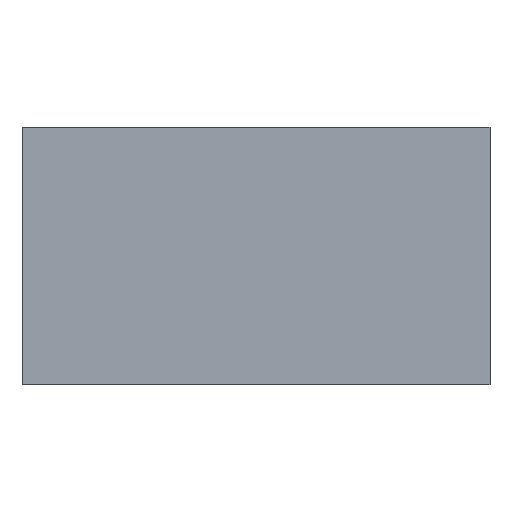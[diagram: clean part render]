
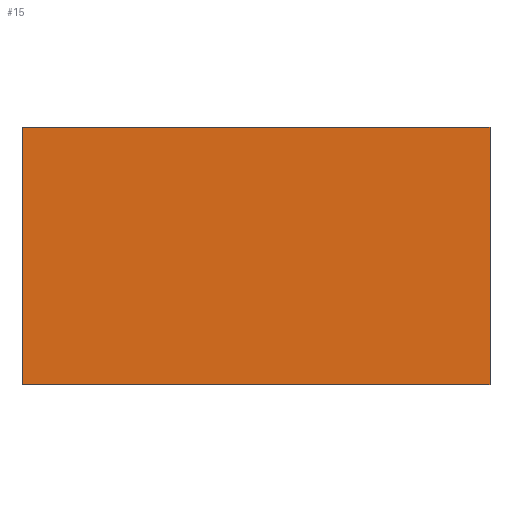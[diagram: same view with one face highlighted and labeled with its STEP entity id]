
A CAD part, front view. The second image highlights one B-rep face of the part: STEP entity #15.
In plain terms, the highlighted planar face has unit normal (0, -1, 0).
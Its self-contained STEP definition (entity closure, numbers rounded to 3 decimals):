
#15 = ADVANCED_FACE ( 'NONE', ( #51 ), #390, .F. ) ;
#40 = VECTOR ( 'NONE', #418, 1000. ) ;
#41 = LINE ( 'NONE', #416, #40 ) ;
#51 = FACE_OUTER_BOUND ( 'NONE', #74, .T. ) ;
#74 = EDGE_LOOP ( 'NONE', ( #105, #106, #107, #115 ) ) ;
#105 = ORIENTED_EDGE ( 'NONE', *, *, #245, .T. ) ;
#106 = ORIENTED_EDGE ( 'NONE', *, *, #271, .F. ) ;
#107 = ORIENTED_EDGE ( 'NONE', *, *, #297, .F. ) ;
#115 = ORIENTED_EDGE ( 'NONE', *, *, #290, .T. ) ;
#195 = LINE ( 'NONE', #463, #203 ) ;
#203 = VECTOR ( 'NONE', #468, 1000. ) ;
#210 = LINE ( 'NONE', #475, #211 ) ;
#211 = VECTOR ( 'NONE', #476, 1000. ) ;
#223 = LINE ( 'NONE', #490, #224 ) ;
#224 = VECTOR ( 'NONE', #491, 1000. ) ;
#245 = EDGE_CURVE ( 'NONE', #336, #323, #41, .T. ) ;
#271 = EDGE_CURVE ( 'NONE', #333, #323, #195, .T. ) ;
#290 = EDGE_CURVE ( 'NONE', #324, #336, #210, .T. ) ;
#297 = EDGE_CURVE ( 'NONE', #324, #333, #223, .T. ) ;
#307 = AXIS2_PLACEMENT_3D ( 'NONE', #393, #399, #400 ) ;
#323 = VERTEX_POINT ( 'NONE', #506 ) ;
#324 = VERTEX_POINT ( 'NONE', #507 ) ;
#333 = VERTEX_POINT ( 'NONE', #515 ) ;
#336 = VERTEX_POINT ( 'NONE', #518 ) ;
#390 = PLANE ( 'NONE',  #307 ) ;
#393 = CARTESIAN_POINT ( 'NONE',  ( -61.5, -5.5, -17.9 ) ) ;
#399 = DIRECTION ( 'NONE',  ( 0., 1., 0. ) ) ;
#400 = DIRECTION ( 'NONE',  ( 0., 0., -1. ) ) ;
#416 = CARTESIAN_POINT ( 'NONE',  ( 61.5, -5.5, -17.9 ) ) ;
#418 = DIRECTION ( 'NONE',  ( 0., 0., 1. ) ) ;
#463 = CARTESIAN_POINT ( 'NONE',  ( -61.5, -5.5, 49.7 ) ) ;
#468 = DIRECTION ( 'NONE',  ( 1., 0., 0. ) ) ;
#475 = CARTESIAN_POINT ( 'NONE',  ( -61.5, -5.5, -17.9 ) ) ;
#476 = DIRECTION ( 'NONE',  ( 1., 0., 0. ) ) ;
#490 = CARTESIAN_POINT ( 'NONE',  ( -61.5, -5.5, -17.9 ) ) ;
#491 = DIRECTION ( 'NONE',  ( 0., 0., 1. ) ) ;
#506 = CARTESIAN_POINT ( 'NONE',  ( 61.5, -5.5, 49.7 ) ) ;
#507 = CARTESIAN_POINT ( 'NONE',  ( -61.5, -5.5, -17.9 ) ) ;
#515 = CARTESIAN_POINT ( 'NONE',  ( -61.5, -5.5, 49.7 ) ) ;
#518 = CARTESIAN_POINT ( 'NONE',  ( 61.5, -5.5, -17.9 ) ) ;
